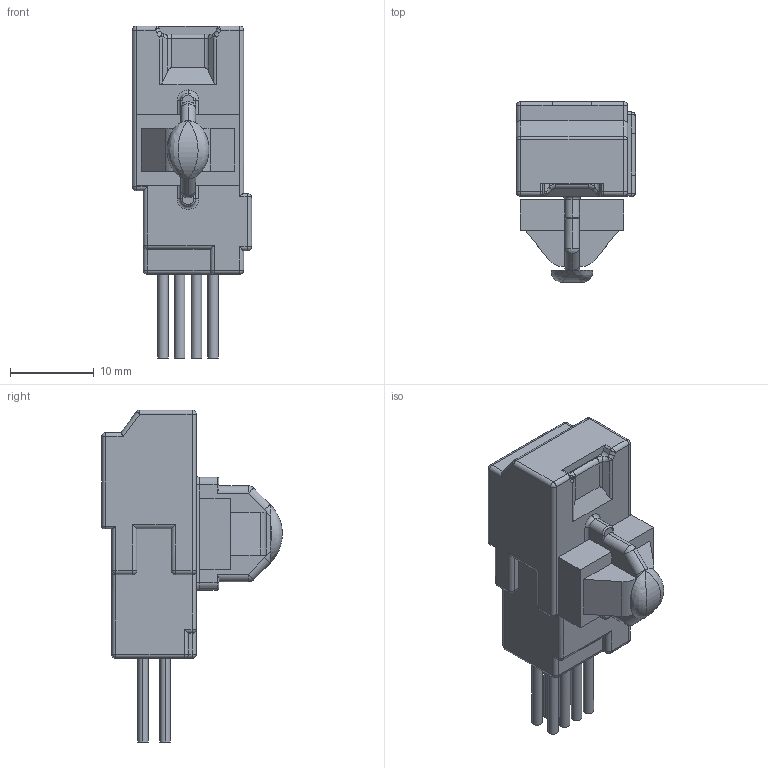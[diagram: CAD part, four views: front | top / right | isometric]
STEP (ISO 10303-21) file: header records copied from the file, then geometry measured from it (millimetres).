
FILE_DESCRIPTION (( 'STEP AP214' ), '1' );
FILE_NAME ('ISHVW 8P MALE CONNECTOR.STEP', '2021-03-15T12:18:29', ( 'system_local' ), ( 'Microsoft' ), 'SwSTEP 2.0', 'SolidWorks 2017', '' );
FILE_SCHEMA (( 'AUTOMOTIVE_DESIGN' ));
Length unit declared in the file: millimetre
Products named in the file (1): ISHVW 8P MALE CONNECTOR
Bounding box: 14.25 x 21.59 x 39.7 mm (x, y, z)
Volume: 4579 mm3; surface area: 2543.2 mm2
Topology: 1 solids, 1 shells, 296 faces, 724 edges, 417 vertices
Faces by surface type: cylinder 123, plane 113, sphere 26, torus 24, bspline 10
Entity records: 11974 total; most frequent: CARTESIAN_POINT 2055, DIRECTION 1427, ORIENTED_EDGE 1388, EDGE_CURVE 694, AXIS2_PLACEMENT_3D 513, VERTEX_POINT 417, VECTOR 401, LINE 401
